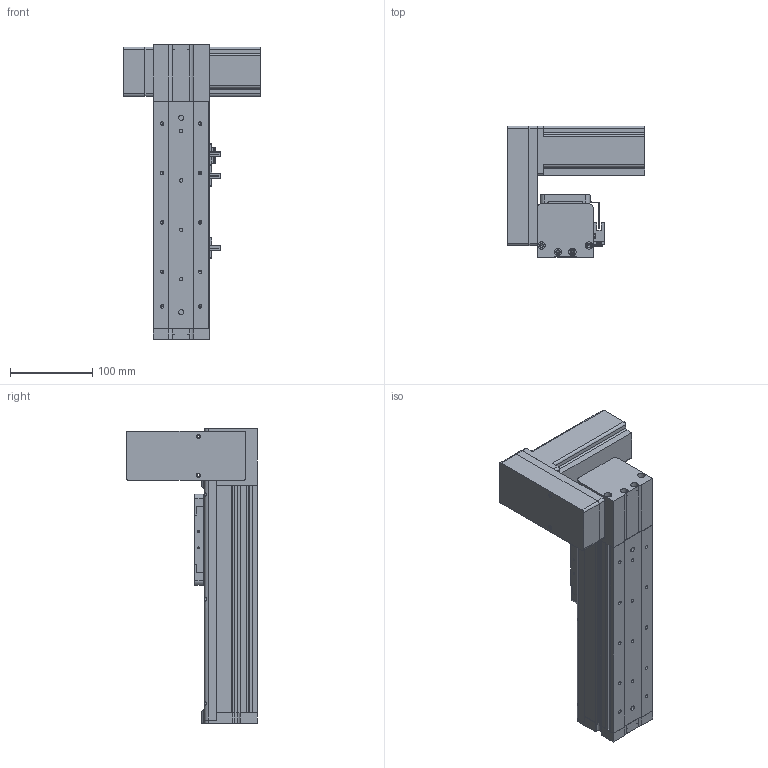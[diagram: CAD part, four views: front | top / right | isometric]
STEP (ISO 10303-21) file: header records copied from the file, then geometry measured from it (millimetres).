
FILE_DESCRIPTION (( 'STEP AP214' ), '1' );
FILE_NAME ('KSD68BS-S100-MRU-CR.STEP', '2019-08-28T05:55:25', ( '微软用户' ), ( '微软中国' ), 'SwSTEP 2.0', 'SolidWorks 2014', '' );
FILE_SCHEMA (( 'AUTOMOTIVE_DESIGN' ));
Length unit declared in the file: millimetre
Products named in the file (14): KSD68BS 100行程盖板全封闭; 68遵裔啣揤啣1; 68宽单导轨全封闭丝杆传动安装板1防护罩; KSD68BS 100行程侧板全封闭; 68宽单导轨全封闭同步带端板; 68单导轨全封闭同步带电机座右; 68单导轨全封闭同步带安装板; 悵誘欶奻狟殏; 68宽马达安装板连板上折同步带; 感应片68宽全封闭; U倰嫖萇EEㄜSX672; 台达ECMA－C20604AS伺服电机（400W); KSD68BS 100行程底板全封闭; KSD68BS-S100-MRU-CR
Assembly tree (17 placements, depth 2):
  KSD68BS-S100-MRU-CR
    KSD68BS 100行程底板全封闭
    台达ECMA－C20604AS伺服电机（400W)
    U倰嫖萇EEㄜSX672  x3
    感应片68宽全封闭
    68宽马达安装板连板上折同步带
    悵誘欶奻狟殏
    68单导轨全封闭同步带安装板
    68单导轨全封闭同步带电机座右
    68宽单导轨全封闭同步带端板
    KSD68BS 100行程侧板全封闭  x2
    68宽单导轨全封闭丝杆传动安装板1防护罩
    68遵裔啣揤啣1  x2
    KSD68BS 100行程盖板全封闭
Bounding box: 167.2 x 159.5 x 358.1 mm (x, y, z)
Volume: 1324460 mm3; surface area: 400184.2 mm2
Topology: 18 solids, 18 shells, 1364 faces, 3833 edges, 2465 vertices
Faces by surface type: plane 623, cylinder 609, cone 132
Entity records: 41954 total; most frequent: CARTESIAN_POINT 7019, DIRECTION 6365, ORIENTED_EDGE 6102, EDGE_CURVE 3051, AXIS2_PLACEMENT_3D 2257, VERTEX_POINT 2003, LINE 1851, VECTOR 1851
